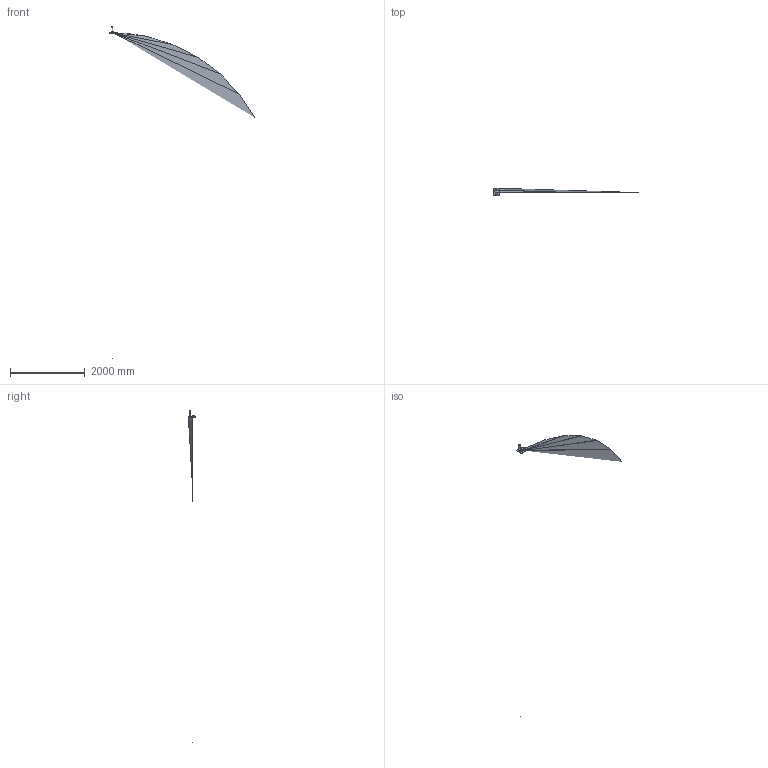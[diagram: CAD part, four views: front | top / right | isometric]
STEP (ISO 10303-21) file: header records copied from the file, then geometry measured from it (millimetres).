
FILE_DESCRIPTION (( 'STEP AP203' ), '1' );
FILE_NAME ('6207C.STEP', '2017-10-23T07:32:53', ( '' ), ( '' ), 'SwSTEP 2.0', 'SolidWorks 2016', '' );
FILE_SCHEMA (( 'CONFIG_CONTROL_DESIGN' ));
Length unit declared in the file: millimetre
Products named in the file (1): 6207C
Bounding box: 4430.38 x 199 x 8893.72 mm (x, y, z)
Surface area: 238199169.1 mm2 (no closed solid volume)
Topology: 0 solids, 3 shells, 112 faces, 264 edges, 155 vertices
Faces by surface type: bspline 39, plane 27, cylinder 23, sphere 12, torus 9, cone 2
Full cylindrical faces by diameter (mm): 6.1 x2, 34.6 x1, 49 x1
Entity records: 5049 total; most frequent: CARTESIAN_POINT 2901, ORIENTED_EDGE 458, DIRECTION 346, EDGE_CURVE 241, VERTEX_POINT 147, AXIS2_PLACEMENT_3D 143, EDGE_LOOP 126, FACE_OUTER_BOUND 119
